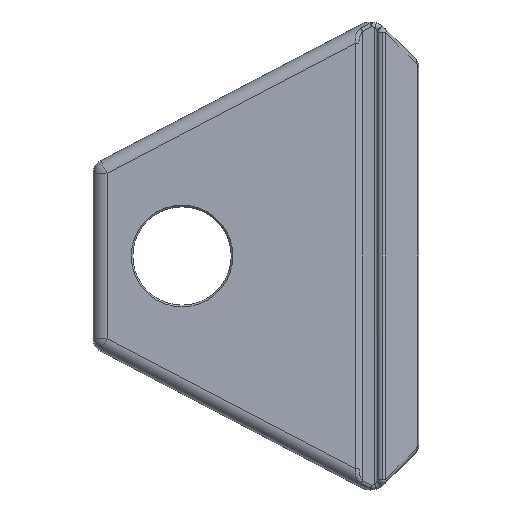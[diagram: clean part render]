
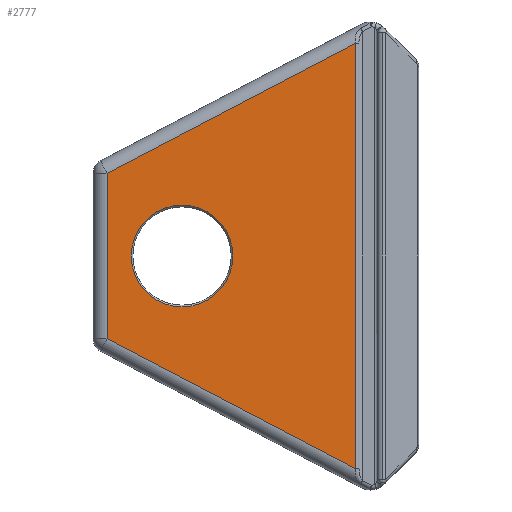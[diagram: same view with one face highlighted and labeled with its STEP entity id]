
A CAD part, left-side view. The second image highlights one B-rep face of the part: STEP entity #2777.
In plain terms, the highlighted planar face has unit normal (-1, 0, 0).
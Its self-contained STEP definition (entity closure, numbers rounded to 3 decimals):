
#117 = LINE ( 'NONE', #1589, #141 ) ;
#141 = VECTOR ( 'NONE', #337, 1000. ) ;
#221 = VERTEX_POINT ( 'NONE', #862 ) ;
#234 = VERTEX_POINT ( 'NONE', #780 ) ;
#337 = DIRECTION ( 'NONE',  ( 0., 0.886, -0.464 ) ) ;
#497 = EDGE_LOOP ( 'NONE', ( #633, #719 ) ) ;
#609 = ORIENTED_EDGE ( 'NONE', *, *, #1431, .T. ) ;
#610 = ORIENTED_EDGE ( 'NONE', *, *, #1382, .F. ) ;
#633 = ORIENTED_EDGE ( 'NONE', *, *, #1823, .T. ) ;
#647 = ORIENTED_EDGE ( 'NONE', *, *, #1325, .T. ) ;
#659 = ORIENTED_EDGE ( 'NONE', *, *, #1872, .T. ) ;
#718 = VERTEX_POINT ( 'NONE', #880 ) ;
#719 = ORIENTED_EDGE ( 'NONE', *, *, #1445, .T. ) ;
#729 = DIRECTION ( 'NONE',  ( 0., -0.886, -0.464 ) ) ;
#780 = CARTESIAN_POINT ( 'NONE',  ( -2.75, 20.9, -5.43 ) ) ;
#807 = CARTESIAN_POINT ( 'NONE',  ( -2.75, 22.196, -12.352 ) ) ;
#862 = CARTESIAN_POINT ( 'NONE',  ( -2.75, 20.9, 5.43 ) ) ;
#880 = CARTESIAN_POINT ( 'NONE',  ( -2.75, 28.9, -8.842 ) ) ;
#1056 = CARTESIAN_POINT ( 'NONE',  ( -2.75, 2.38, 22.726 ) ) ;
#1072 = DIRECTION ( 'NONE',  ( 0., 1., 0. ) ) ;
#1129 = CARTESIAN_POINT ( 'NONE',  ( -2.75, 20.9, 0. ) ) ;
#1181 = DIRECTION ( 'NONE',  ( 1., 0., 0. ) ) ;
#1204 = DIRECTION ( 'NONE',  ( 1., 0., 0. ) ) ;
#1244 = DIRECTION ( 'NONE',  ( 0., 1., 0. ) ) ;
#1325 = EDGE_CURVE ( 'NONE', #718, #3171, #2407, .T. ) ;
#1382 = EDGE_CURVE ( 'NONE', #3241, #3171, #2377, .T. ) ;
#1431 = EDGE_CURVE ( 'NONE', #3146, #718, #3070, .T. ) ;
#1445 = EDGE_CURVE ( 'NONE', #234, #221, #3130, .T. ) ;
#1474 = CARTESIAN_POINT ( 'NONE',  ( -2.75, 2.38, -22.726 ) ) ;
#1589 = CARTESIAN_POINT ( 'NONE',  ( -2.75, 1.24, 23.323 ) ) ;
#1823 = EDGE_CURVE ( 'NONE', #221, #234, #3095, .T. ) ;
#1872 = EDGE_CURVE ( 'NONE', #3241, #3146, #117, .T. ) ;
#2214 = EDGE_LOOP ( 'NONE', ( #609, #647, #610, #659 ) ) ;
#2289 = FACE_BOUND ( 'NONE', #497, .T. ) ;
#2304 = FACE_OUTER_BOUND ( 'NONE', #2214, .T. ) ;
#2326 = VECTOR ( 'NONE', #729, 1000. ) ;
#2377 = LINE ( 'NONE', #3317, #2397 ) ;
#2397 = VECTOR ( 'NONE', #3511, 1000. ) ;
#2407 = LINE ( 'NONE', #807, #2326 ) ;
#2457 = AXIS2_PLACEMENT_3D ( 'NONE', #3420, #1181, #1244 ) ;
#2648 = CARTESIAN_POINT ( 'NONE',  ( -2.75, 28.9, 8.842 ) ) ;
#2726 = AXIS2_PLACEMENT_3D ( 'NONE', #1129, #1204, #1072 ) ;
#2759 = AXIS2_PLACEMENT_3D ( 'NONE', #2949, #2911, #2899 ) ;
#2777 = ADVANCED_FACE ( 'NONE', ( #2289, #2304 ), #2937, .F. ) ;
#2899 = DIRECTION ( 'NONE',  ( 0., 1., 0. ) ) ;
#2911 = DIRECTION ( 'NONE',  ( 1., 0., 0. ) ) ;
#2937 = PLANE ( 'NONE',  #2759 ) ;
#2949 = CARTESIAN_POINT ( 'NONE',  ( -2.75, 2.38, 25.5 ) ) ;
#3070 = LINE ( 'NONE', #3483, #3094 ) ;
#3094 = VECTOR ( 'NONE', #3361, 1000. ) ;
#3095 = CIRCLE ( 'NONE', #2726, 5.43 ) ;
#3130 = CIRCLE ( 'NONE', #2457, 5.43 ) ;
#3146 = VERTEX_POINT ( 'NONE', #2648 ) ;
#3171 = VERTEX_POINT ( 'NONE', #1474 ) ;
#3241 = VERTEX_POINT ( 'NONE', #1056 ) ;
#3317 = CARTESIAN_POINT ( 'NONE',  ( -2.75, 2.38, 25.5 ) ) ;
#3361 = DIRECTION ( 'NONE',  ( 0., 0., -1. ) ) ;
#3420 = CARTESIAN_POINT ( 'NONE',  ( -2.75, 20.9, 0. ) ) ;
#3483 = CARTESIAN_POINT ( 'NONE',  ( -2.75, 28.9, 25.5 ) ) ;
#3511 = DIRECTION ( 'NONE',  ( 0., 0., -1. ) ) ;
